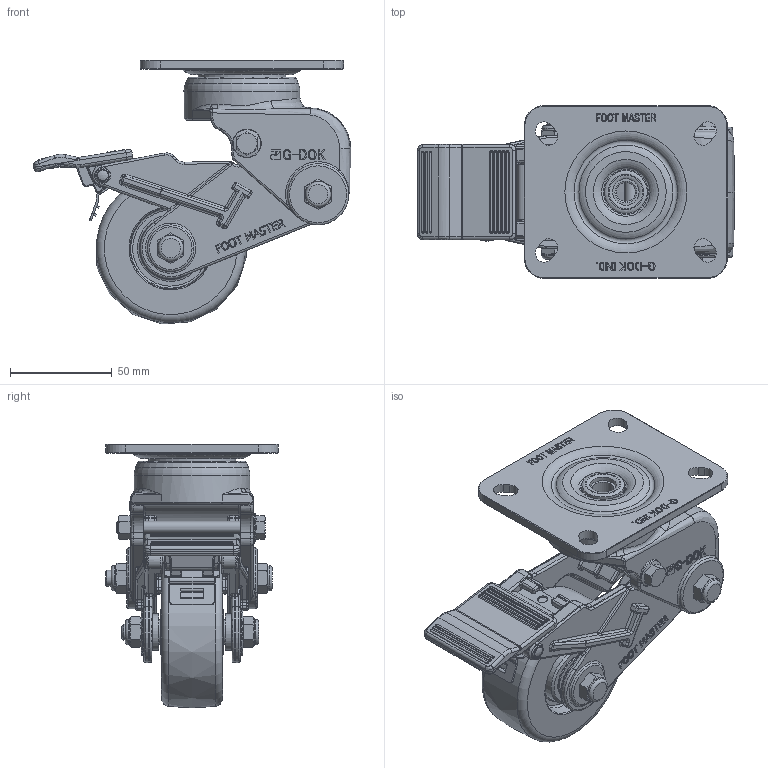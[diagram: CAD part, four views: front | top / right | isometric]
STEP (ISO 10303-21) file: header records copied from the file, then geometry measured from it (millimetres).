
FILE_DESCRIPTION(/* description */ (''),/* implementation_level */ '2;1');
FILE_NAME(/* name */ '\\192.168.10.38\지덕공유\1.기술연구소\2.연구개발 진행중\135.GDS-75_브레이크 검토건_2025.11.20\1.도면\2.3D\홈페이지용\2026.8.13\GDS-75-BSF EU TYPE_20260813.stp',/* time_stamp */ '2026-08-13T14:49:16+09:00',/* author */ ('admin'),/* organization */ (''),/* preprocessor_version */ 'ST-DEVELOPER v18.1',/* originating_system */ 'Autodesk Inventor 2021',/* authorisation */ '');
FILE_SCHEMA (('AUTOMOTIVE_DESIGN { 1 0 10303 214 3 1 1 }'));
Products named in the file (1): GDS-75-BSF EU TYPE_20260813
Bounding box: 156.05 x 85 x 129.76 mm (x, y, z)
Volume: 338449.6 mm3; surface area: 101722 mm2
Topology: 1 solids, 1 shells, 2428 faces, 6063 edges, 3704 vertices
Faces by surface type: plane 851, bspline 720, cylinder 546, cone 138, torus 104, sphere 69
Full cylindrical faces by diameter (mm): 2.5 x1, 4 x1, 4.2 x2, 5 x1, 6 x2, 7.95 x2, 9.3 x1, 9.96 x2, 10.7 x1, 10.8 x3, 11.6 x1, 12 x2, 12.5 x4, 12.564 x2, 13 x1, 14 x1, 17.436 x2, 18 x2, 21 x1, 22 x2, 43 x1, 57 x1
Entity records: 96051 total; most frequent: CARTESIAN_POINT 42081, ORIENTED_EDGE 12006, DIRECTION 9914, EDGE_CURVE 6003, VERTEX_POINT 3704, AXIS2_PLACEMENT_3D 3519, LINE 2876, VECTOR 2876
